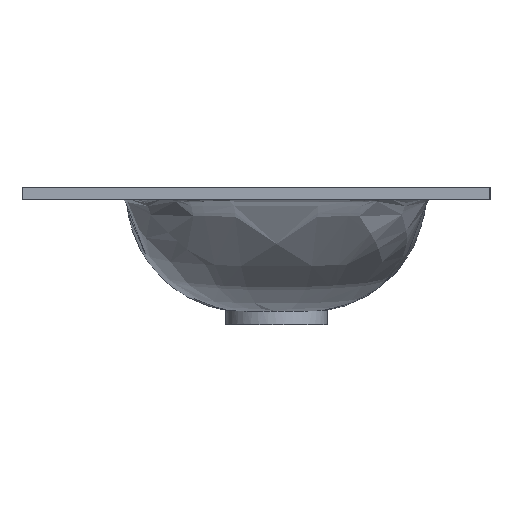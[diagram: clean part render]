
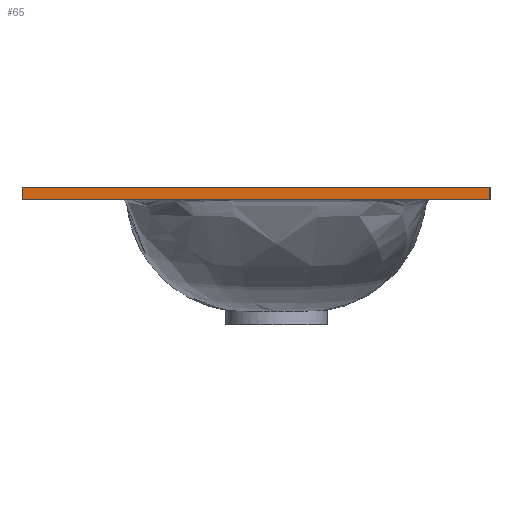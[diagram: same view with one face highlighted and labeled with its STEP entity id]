
A CAD part, left-side view. The second image highlights one B-rep face of the part: STEP entity #65.
In plain terms, the highlighted planar face has unit normal (-1, 0, 0).
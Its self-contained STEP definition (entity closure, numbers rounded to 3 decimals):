
#65=ADVANCED_FACE('',(#84),#77,.F.);
#77=PLANE('',#205);
#84=FACE_OUTER_BOUND('',#88,.T.);
#88=EDGE_LOOP('',(#117,#118,#119,#120));
#117=ORIENTED_EDGE('',*,*,#168,.T.);
#118=ORIENTED_EDGE('',*,*,#161,.F.);
#119=ORIENTED_EDGE('',*,*,#169,.F.);
#120=ORIENTED_EDGE('',*,*,#166,.T.);
#143=VERTEX_POINT('',#257);
#146=VERTEX_POINT('',#262);
#149=VERTEX_POINT('',#272);
#150=VERTEX_POINT('',#274);
#161=EDGE_CURVE('',#146,#143,#180,.T.);
#166=EDGE_CURVE('',#150,#149,#185,.T.);
#168=EDGE_CURVE('',#149,#143,#187,.T.);
#169=EDGE_CURVE('',#150,#146,#188,.T.);
#180=LINE('',#263,#192);
#185=LINE('',#273,#197);
#187=LINE('',#277,#199);
#188=LINE('',#278,#200);
#192=VECTOR('',#220,1.);
#197=VECTOR('',#229,1.);
#199=VECTOR('',#233,1.);
#200=VECTOR('',#234,1.);
#205=AXIS2_PLACEMENT_3D('',#279,#235,#236);
#220=DIRECTION('',(0.,0.,1.));
#229=DIRECTION('',(0.,0.,1.));
#233=DIRECTION('',(0.,1.,0.));
#234=DIRECTION('',(0.,1.,0.));
#235=DIRECTION('',(1.,0.,0.));
#236=DIRECTION('',(0.,0.,-1.));
#257=CARTESIAN_POINT('',(-501.,250.,0.));
#262=CARTESIAN_POINT('',(-501.,250.,-12.));
#263=CARTESIAN_POINT('',(-501.,250.,-200.));
#272=CARTESIAN_POINT('',(-501.,-210.,0.));
#273=CARTESIAN_POINT('',(-501.,-210.,-200.));
#274=CARTESIAN_POINT('',(-501.,-210.,-12.));
#277=CARTESIAN_POINT('',(-501.,-210.,0.));
#278=CARTESIAN_POINT('',(-501.,-210.,-12.));
#279=CARTESIAN_POINT('',(-501.,-210.,-200.));
